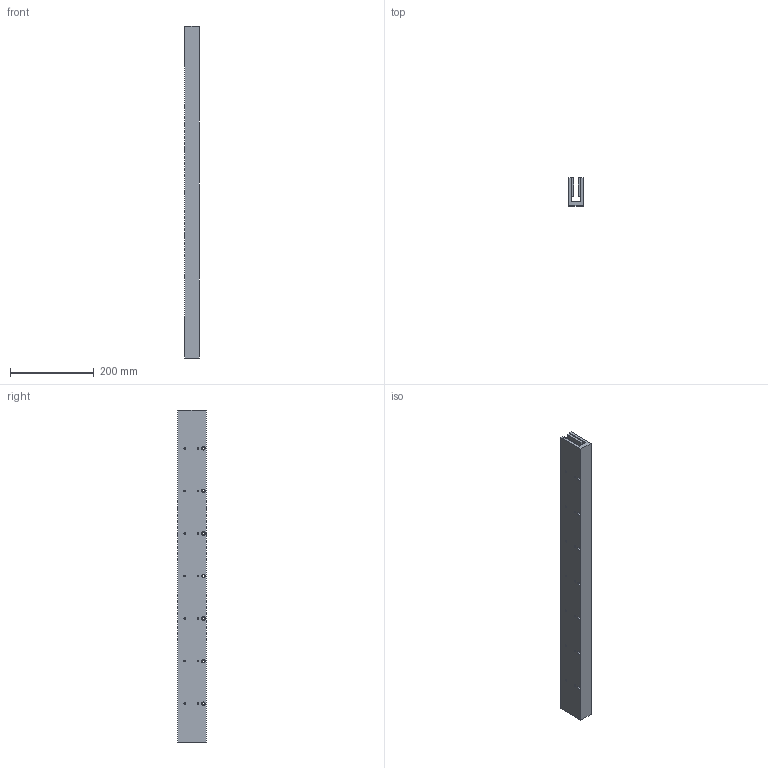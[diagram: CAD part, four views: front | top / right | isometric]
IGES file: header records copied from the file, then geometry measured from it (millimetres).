
Global section: file name: No Iges File Name specified; native system: Autodesk Inventor 2009; preprocessor: AutoDesk Inventor Iges Exporter R2009; author: je17857; date: 20091116.111527; units: inch
Bounding box: 34.29 x 67.31 x 792.48 mm (x, y, z)
Volume: 1186087.8 mm3; surface area: 298135.3 mm2
Topology: 1 solids, 1 shells, 390 faces, 942 edges, 628 vertices
Faces by surface type: plane 278, bspline 112
